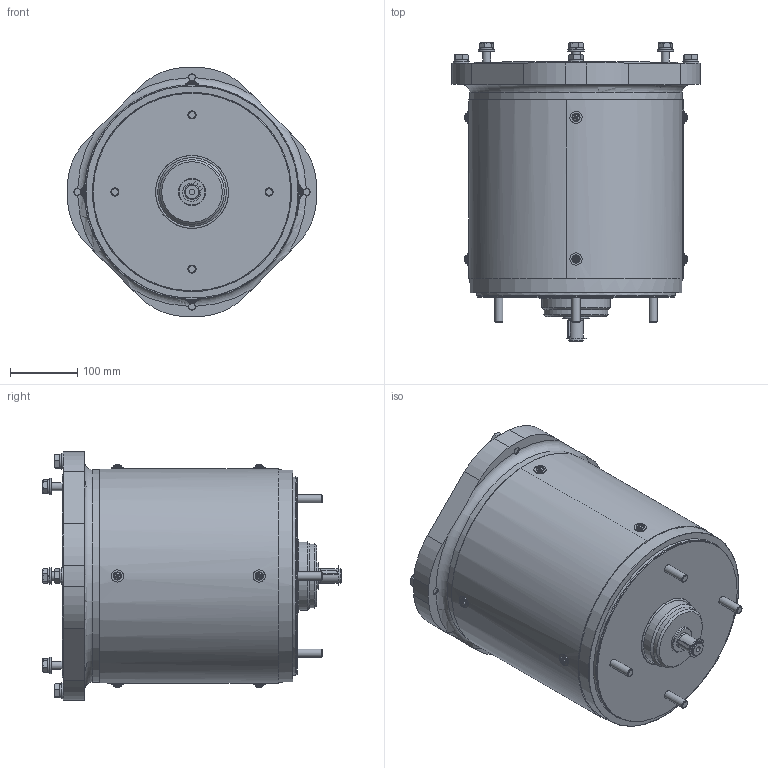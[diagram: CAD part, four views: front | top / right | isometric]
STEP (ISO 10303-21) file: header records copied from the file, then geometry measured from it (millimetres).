
FILE_DESCRIPTION(/* description */ (''),/* implementation_level */ '2;1');
FILE_NAME(/* name */ 'K:\NEMANJA\0700-6\CABLE REEL PART\0700-6\03 MCC\STP\75688_1.stp',/* time_stamp */ '2017-12-01T13:18:33+01:00',/* author */ ('vlakrc01'),/* organization */ ('Hillmar Industries Ltd.'),/* preprocessor_version */ 'ST-DEVELOPER v16.1',/* originating_system */ 'Autodesk Inventor 2016',/* authorisation */ '');
FILE_SCHEMA (('AUTOMOTIVE_DESIGN { 1 0 10303 214 3 1 1 }'));
Length unit declared in the file: millimetre
Products named in the file (1): 75688 MCC-NB-IEC-550-ME-25_Shrinkwrap_1
Bounding box: 369.85 x 442 x 369.85 mm (x, y, z)
Volume: 27870472.8 mm3; surface area: 880555 mm2
Topology: 1 solids, 1 shells, 566 faces, 1438 edges, 937 vertices
Faces by surface type: plane 238, cone 149, cylinder 116, torus 45, bspline 10, sphere 8
Full cylindrical faces by diameter (mm): 6 x8, 8.3 x1, 10.106 x4, 11.053 x8, 12 x8, 17.2 x8, 18 x8, 20.85 x1, 22.225 x2, 24 x8, 40 x1, 95.6 x1, 101.6 x1, 108.026 x1, 110 x1, 230 x1, 293 x1, 295 x1, 300 x1, 315 x1
Entity records: 18639 total; most frequent: CARTESIAN_POINT 5798, ORIENTED_EDGE 2504, DIRECTION 2472, EDGE_CURVE 1252, AXIS2_PLACEMENT_3D 1076, VERTEX_POINT 867, EDGE_LOOP 775, FACE_OUTER_BOUND 566
